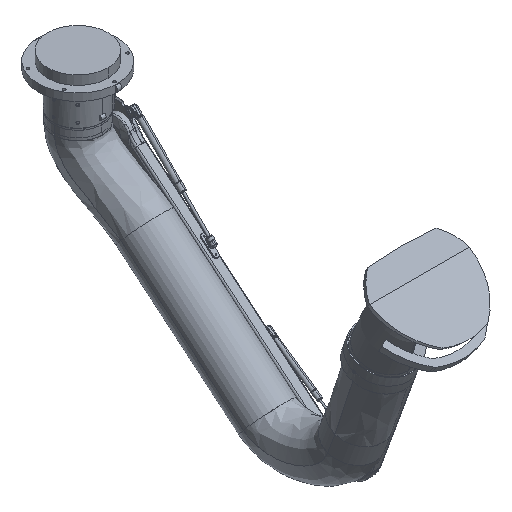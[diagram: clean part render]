
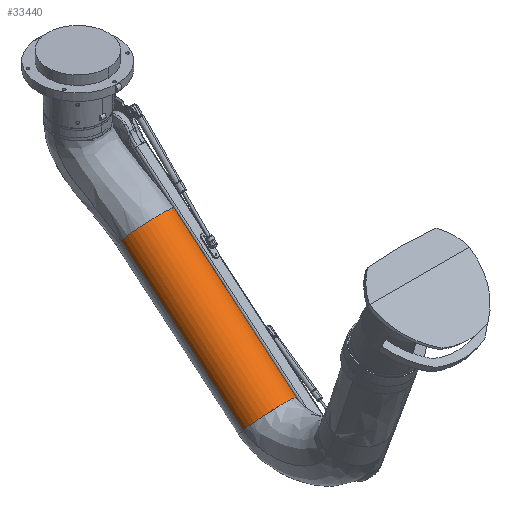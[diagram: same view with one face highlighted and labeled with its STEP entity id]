
A CAD part, isometric view. The second image highlights one B-rep face of the part: STEP entity #33440.
In plain terms, the highlighted free-form (B-spline) face has degree [3, 3] with [7, 6] control points.
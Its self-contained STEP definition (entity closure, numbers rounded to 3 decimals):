
#32268=CARTESIAN_POINT('',(0.,728.47,-328.713));
#32269=DIRECTION('',(0.,0.94,0.342));
#32270=DIRECTION('',(-1.,0.,0.));
#32271=AXIS2_PLACEMENT_3D('',#32268,#32269,#32270);
#32331=CARTESIAN_POINT('',(0.,234.854,-508.375));
#32332=DIRECTION('',(0.,0.94,0.342));
#32333=DIRECTION('',(-1.,0.,0.));
#32334=AXIS2_PLACEMENT_3D('',#32331,#32332,#32333);
#32339=CARTESIAN_POINT('',(-80.,234.854,
-508.375));
#32340=CARTESIAN_POINT('',(-80.,289.7,
-488.413));
#32341=CARTESIAN_POINT('',(-80.,399.392,
-448.488));
#32342=CARTESIAN_POINT('',(-80.,563.931,
-388.601));
#32343=CARTESIAN_POINT('',(-80.,673.624,
-348.676));
#32344=CARTESIAN_POINT('',(-80.,728.47,
-328.714));
#32589=CARTESIAN_POINT('',(80.,234.853,
-508.375));
#32590=CARTESIAN_POINT('',(80.,289.7,
-488.412));
#32591=CARTESIAN_POINT('',(80.,399.392,
-448.488));
#32592=CARTESIAN_POINT('',(80.,563.931,
-388.6));
#32593=CARTESIAN_POINT('',(80.,673.623,
-348.676));
#32594=CARTESIAN_POINT('',(80.,728.47,
-328.713));
#33154=CARTESIAN_POINT('',(80.,234.853,
-508.375));
#33155=CARTESIAN_POINT('',(-80.,234.854,
-508.375));
#33156=VERTEX_POINT('',#33154);
#33157=VERTEX_POINT('',#33155);
#33162=VERTEX_POINT('',#32594);
#33163=VERTEX_POINT('',#32344);
#33388=CARTESIAN_POINT('',(-79.842,226.699,
-516.689));
#33389=CARTESIAN_POINT('',(-79.842,229.99,
-515.491));
#33390=CARTESIAN_POINT('',(-79.842,397.82,
-454.406));
#33391=CARTESIAN_POINT('',(-79.842,568.94,
-392.123));
#33392=CARTESIAN_POINT('',(-79.842,736.769,
-331.038));
#33393=CARTESIAN_POINT('',(-79.842,740.06,
-329.841));
#33394=CARTESIAN_POINT('',(-82.934,209.894,
-470.517));
#33395=CARTESIAN_POINT('',(-82.934,213.185,
-469.319));
#33396=CARTESIAN_POINT('',(-82.934,381.015,
-408.235));
#33397=CARTESIAN_POINT('',(-82.934,552.135,
-345.952));
#33398=CARTESIAN_POINT('',(-82.934,719.964,
-284.867));
#33399=CARTESIAN_POINT('',(-82.934,723.255,
-283.669));
#33400=CARTESIAN_POINT('',(-49.232,197.62,
-436.793));
#33401=CARTESIAN_POINT('',(-49.232,200.91,
-435.595));
#33402=CARTESIAN_POINT('',(-49.232,368.74,
-374.51));
#33403=CARTESIAN_POINT('',(-49.232,539.86,
-312.228));
#33404=CARTESIAN_POINT('',(-49.232,707.69,
-251.143));
#33405=CARTESIAN_POINT('',(-49.232,710.98,
-249.945));
#33406=CARTESIAN_POINT('',(0.,197.62,
-436.793));
#33407=CARTESIAN_POINT('',(0.,200.91,
-435.595));
#33408=CARTESIAN_POINT('',(0.,368.74,
-374.51));
#33409=CARTESIAN_POINT('',(0.,539.86,
-312.227));
#33410=CARTESIAN_POINT('',(0.,707.69,
-251.142));
#33411=CARTESIAN_POINT('',(0.,710.98,
-249.945));
#33412=CARTESIAN_POINT('',(49.232,197.62,
-436.793));
#33413=CARTESIAN_POINT('',(49.232,200.91,
-435.595));
#33414=CARTESIAN_POINT('',(49.232,368.74,
-374.51));
#33415=CARTESIAN_POINT('',(49.232,539.86,
-312.227));
#33416=CARTESIAN_POINT('',(49.232,707.69,
-251.142));
#33417=CARTESIAN_POINT('',(49.232,710.98,
-249.945));
#33418=CARTESIAN_POINT('',(82.933,209.894,
-470.517));
#33419=CARTESIAN_POINT('',(82.933,213.185,
-469.319));
#33420=CARTESIAN_POINT('',(82.933,381.014,
-408.234));
#33421=CARTESIAN_POINT('',(82.933,552.135,
-345.951));
#33422=CARTESIAN_POINT('',(82.933,719.964,
-284.866));
#33423=CARTESIAN_POINT('',(82.933,723.255,
-283.669));
#33424=CARTESIAN_POINT('',(79.842,226.699,
-516.688));
#33425=CARTESIAN_POINT('',(79.842,229.99,
-515.491));
#33426=CARTESIAN_POINT('',(79.842,397.819,
-454.406));
#33427=CARTESIAN_POINT('',(79.842,568.94,
-392.123));
#33428=CARTESIAN_POINT('',(79.842,736.769,
-331.038));
#33429=CARTESIAN_POINT('',(79.842,740.06,
-329.84));
#33430=(BOUNDED_SURFACE()B_SPLINE_SURFACE(3,3,((#33388,#33389,#33390,#33391,
#33392,#33393),(#33394,#33395,#33396,#33397,#33398,#33399),(#33400,#33401,
#33402,#33403,#33404,#33405),(#33406,#33407,#33408,#33409,#33410,#33411),
(#33412,#33413,#33414,#33415,#33416,#33417),(#33418,#33419,#33420,#33421,#33422,
#33423),(#33424,#33425,#33426,#33427,#33428,#33429)),.UNSPECIFIED.,.F.,.F.,.F.)B_SPLINE_SURFACE_WITH_KNOTS((4,3,4),(4,1,1,4),(0.,1.,2.),(-0.02,0.,1.,
1.02),.UNSPECIFIED.)GEOMETRIC_REPRESENTATION_ITEM()RATIONAL_B_SPLINE_SURFACE((
(1.187,1.187,1.187,1.187,
1.187,1.187),(0.938,0.938,
0.938,0.938,0.938,0.938),(
0.938,0.938,0.938,0.938,
0.938,0.938),(1.187,1.187,
1.187,1.187,1.187,1.187),(
0.938,0.938,0.938,0.938,
0.938,0.938),(0.938,0.938,
0.938,0.938,0.938,0.938),(
1.187,1.187,1.187,1.187,
1.187,1.187)))REPRESENTATION_ITEM('')SURFACE());
#33432=ORIENTED_EDGE('',*,*,#33431,.F.);
#33434=ORIENTED_EDGE('',*,*,#33433,.T.);
#33435=ORIENTED_EDGE('',*,*,#33371,.T.);
#33437=ORIENTED_EDGE('',*,*,#33436,.F.);
#33438=EDGE_LOOP('',(#33432,#33434,#33435,#33437));
#33439=FACE_OUTER_BOUND('',#33438,.F.);
#32272=CIRCLE('',#32271,80.);
#32335=CIRCLE('',#32334,80.);
#32345=B_SPLINE_CURVE_WITH_KNOTS('',3,(#32339,#32340,#32341,#32342,#32343,
#32344),.UNSPECIFIED.,.F.,.F.,(4,1,1,4),(0.,0.333,
0.667,1.),.UNSPECIFIED.);
#32595=B_SPLINE_CURVE_WITH_KNOTS('',3,(#32589,#32590,#32591,#32592,#32593,
#32594),.UNSPECIFIED.,.F.,.F.,(4,1,1,4),(0.,0.333,
0.667,1.),.UNSPECIFIED.);
#33371=EDGE_CURVE('',#33163,#33162,#32272,.T.);
#33431=EDGE_CURVE('',#33157,#33156,#32335,.T.);
#33433=EDGE_CURVE('',#33157,#33163,#32345,.T.);
#33436=EDGE_CURVE('',#33156,#33162,#32595,.T.);
#33440=ADVANCED_FACE('',(#33439),#33430,.T.);
